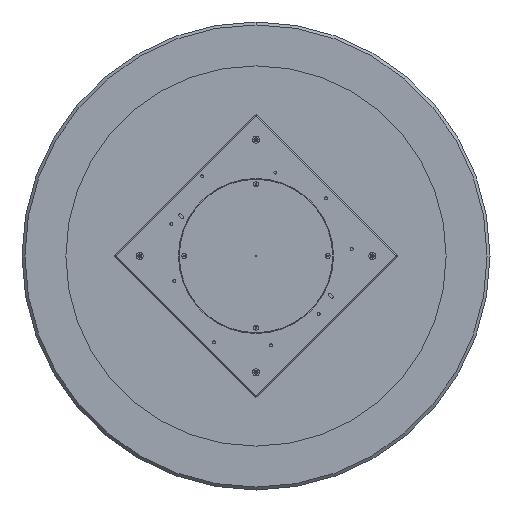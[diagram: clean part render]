
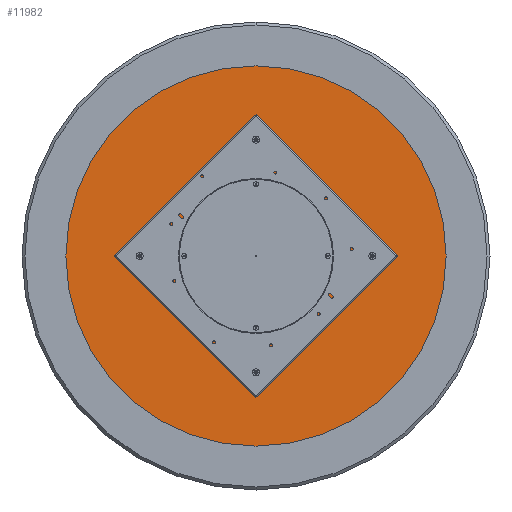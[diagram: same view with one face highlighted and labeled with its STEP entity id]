
A CAD part, front view. The second image highlights one B-rep face of the part: STEP entity #11982.
In plain terms, the highlighted planar face has unit normal (0, -1, 0).
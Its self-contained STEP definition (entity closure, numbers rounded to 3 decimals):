
#76 = DIRECTION ( 'NONE',  ( 0., 0., -1. ) ) ;
#173 = AXIS2_PLACEMENT_3D ( 'NONE', #11591, #7320, #12760 ) ;
#642 = VERTEX_POINT ( 'NONE', #10860 ) ;
#913 = EDGE_CURVE ( 'NONE', #16068, #2372, #10021, .T. ) ;
#1323 = AXIS2_PLACEMENT_3D ( 'NONE', #12927, #15889, #9268 ) ;
#1368 = CIRCLE ( 'NONE', #13629, 3.4 ) ;
#1441 = ORIENTED_EDGE ( 'NONE', *, *, #913, .F. ) ;
#1608 = EDGE_LOOP ( 'NONE', ( #3883, #16516 ) ) ;
#1932 = CIRCLE ( 'NONE', #2232, 650. ) ;
#1983 = CARTESIAN_POINT ( 'NONE',  ( 0., 0., -394.1 ) ) ;
#2232 = AXIS2_PLACEMENT_3D ( 'NONE', #14302, #15557, #3349 ) ;
#2272 = DIRECTION ( 'NONE',  ( 0., 0., -1. ) ) ;
#2363 = AXIS2_PLACEMENT_3D ( 'NONE', #6146, #16942, #17039 ) ;
#2372 = VERTEX_POINT ( 'NONE', #1983 ) ;
#2396 = EDGE_CURVE ( 'NONE', #16031, #14643, #7248, .T. ) ;
#2650 = AXIS2_PLACEMENT_3D ( 'NONE', #10902, #12161, #16362 ) ;
#2866 = VERTEX_POINT ( 'NONE', #4003 ) ;
#2881 = DIRECTION ( 'NONE',  ( 0., -1., 0. ) ) ;
#3349 = DIRECTION ( 'NONE',  ( 0., 0., 1. ) ) ;
#3391 = FACE_BOUND ( 'NONE', #6475, .T. ) ;
#3483 = DIRECTION ( 'NONE',  ( 0., 1., 0. ) ) ;
#3526 = CIRCLE ( 'NONE', #5795, 3.4 ) ;
#3550 = CARTESIAN_POINT ( 'NONE',  ( 0., 0., -650. ) ) ;
#3624 = CARTESIAN_POINT ( 'NONE',  ( -397.5, 0., 0. ) ) ;
#3649 = EDGE_LOOP ( 'NONE', ( #10224, #16294 ) ) ;
#3883 = ORIENTED_EDGE ( 'NONE', *, *, #9986, .F. ) ;
#4003 = CARTESIAN_POINT ( 'NONE',  ( 0., 0., 6.3 ) ) ;
#4172 = EDGE_CURVE ( 'NONE', #2372, #16068, #5626, .T. ) ;
#4305 = EDGE_CURVE ( 'NONE', #16565, #10723, #17608, .T. ) ;
#4743 = VERTEX_POINT ( 'NONE', #3550 ) ;
#4918 = PLANE ( 'NONE',  #11664 ) ;
#5007 = FACE_BOUND ( 'NONE', #9301, .T. ) ;
#5129 = DIRECTION ( 'NONE',  ( 0., -1., 0. ) ) ;
#5133 = EDGE_CURVE ( 'NONE', #10723, #16565, #16716, .T. ) ;
#5485 = EDGE_CURVE ( 'NONE', #642, #8472, #3526, .T. ) ;
#5613 = AXIS2_PLACEMENT_3D ( 'NONE', #3624, #13139, #11712 ) ;
#5626 = CIRCLE ( 'NONE', #173, 3.4 ) ;
#5694 = CIRCLE ( 'NONE', #15639, 3.4 ) ;
#5795 = AXIS2_PLACEMENT_3D ( 'NONE', #7239, #2881, #76 ) ;
#5862 = DIRECTION ( 'NONE',  ( 0., 0., -1. ) ) ;
#6029 = ORIENTED_EDGE ( 'NONE', *, *, #9763, .F. ) ;
#6146 = CARTESIAN_POINT ( 'NONE',  ( 0., 0., -397.5 ) ) ;
#6343 = FACE_BOUND ( 'NONE', #11786, .T. ) ;
#6358 = DIRECTION ( 'NONE',  ( 0., 0., -1. ) ) ;
#6475 = EDGE_LOOP ( 'NONE', ( #6724, #7577 ) ) ;
#6724 = ORIENTED_EDGE ( 'NONE', *, *, #5485, .F. ) ;
#6784 = DIRECTION ( 'NONE',  ( 0., 0., -1. ) ) ;
#6820 = CARTESIAN_POINT ( 'NONE',  ( 397.5, 0., 3.4 ) ) ;
#6902 = CARTESIAN_POINT ( 'NONE',  ( 397.5, 0., -3.4 ) ) ;
#6952 = DIRECTION ( 'NONE',  ( 0., -1., 0. ) ) ;
#7239 = CARTESIAN_POINT ( 'NONE',  ( 0., 0., 397.5 ) ) ;
#7248 = CIRCLE ( 'NONE', #17249, 3.4 ) ;
#7320 = DIRECTION ( 'NONE',  ( 0., -1., 0. ) ) ;
#7390 = FACE_OUTER_BOUND ( 'NONE', #1608, .T. ) ;
#7577 = ORIENTED_EDGE ( 'NONE', *, *, #11558, .F. ) ;
#7817 = DIRECTION ( 'NONE',  ( 0., 0., -1. ) ) ;
#8245 = EDGE_CURVE ( 'NONE', #14643, #16031, #1368, .T. ) ;
#8472 = VERTEX_POINT ( 'NONE', #13604 ) ;
#8814 = CARTESIAN_POINT ( 'NONE',  ( 0., 0., 0. ) ) ;
#8904 = AXIS2_PLACEMENT_3D ( 'NONE', #12436, #9929, #5862 ) ;
#9268 = DIRECTION ( 'NONE',  ( 0., 0., -1. ) ) ;
#9301 = EDGE_LOOP ( 'NONE', ( #1441, #17680 ) ) ;
#9695 = CARTESIAN_POINT ( 'NONE',  ( 397.5, 0., 0. ) ) ;
#9743 = CIRCLE ( 'NONE', #8904, 6.3 ) ;
#9763 = EDGE_CURVE ( 'NONE', #17107, #2866, #9743, .T. ) ;
#9792 = AXIS2_PLACEMENT_3D ( 'NONE', #14387, #5129, #2272 ) ;
#9929 = DIRECTION ( 'NONE',  ( 0., -1., 0. ) ) ;
#9986 = EDGE_CURVE ( 'NONE', #4743, #17278, #1932, .T. ) ;
#10021 = CIRCLE ( 'NONE', #2363, 3.4 ) ;
#10224 = ORIENTED_EDGE ( 'NONE', *, *, #8245, .F. ) ;
#10320 = DIRECTION ( 'NONE',  ( 0., 0., 1. ) ) ;
#10481 = DIRECTION ( 'NONE',  ( 0., -1., 0. ) ) ;
#10650 = CARTESIAN_POINT ( 'NONE',  ( 397.5, 0., 0. ) ) ;
#10723 = VERTEX_POINT ( 'NONE', #16301 ) ;
#10860 = CARTESIAN_POINT ( 'NONE',  ( 0., 0., 394.1 ) ) ;
#10902 = CARTESIAN_POINT ( 'NONE',  ( 0., 0., 0. ) ) ;
#11558 = EDGE_CURVE ( 'NONE', #8472, #642, #5694, .T. ) ;
#11591 = CARTESIAN_POINT ( 'NONE',  ( 0., 0., -397.5 ) ) ;
#11664 = AXIS2_PLACEMENT_3D ( 'NONE', #8814, #3483, #10320 ) ;
#11712 = DIRECTION ( 'NONE',  ( 0., 0., -1. ) ) ;
#11786 = EDGE_LOOP ( 'NONE', ( #16005, #16711 ) ) ;
#11948 = CARTESIAN_POINT ( 'NONE',  ( 0., 0., 397.5 ) ) ;
#11982 = ADVANCED_FACE ( 'NONE', ( #17049, #6343, #3391, #15781, #5007, #7390 ), #4918, .F. ) ;
#12161 = DIRECTION ( 'NONE',  ( 0., 1., 0. ) ) ;
#12436 = CARTESIAN_POINT ( 'NONE',  ( 0., 0., 0. ) ) ;
#12470 = CARTESIAN_POINT ( 'NONE',  ( 0., 0., -6.3 ) ) ;
#12760 = DIRECTION ( 'NONE',  ( 0., 0., -1. ) ) ;
#12927 = CARTESIAN_POINT ( 'NONE',  ( -397.5, 0., 0. ) ) ;
#13094 = CARTESIAN_POINT ( 'NONE',  ( 0., 0., 650. ) ) ;
#13139 = DIRECTION ( 'NONE',  ( 0., -1., 0. ) ) ;
#13296 = DIRECTION ( 'NONE',  ( 0., -1., 0. ) ) ;
#13604 = CARTESIAN_POINT ( 'NONE',  ( 0., 0., 400.9 ) ) ;
#13629 = AXIS2_PLACEMENT_3D ( 'NONE', #10650, #10481, #7817 ) ;
#14302 = CARTESIAN_POINT ( 'NONE',  ( 0., 0., 0. ) ) ;
#14387 = CARTESIAN_POINT ( 'NONE',  ( 0., 0., 0. ) ) ;
#14606 = CIRCLE ( 'NONE', #2650, 650. ) ;
#14643 = VERTEX_POINT ( 'NONE', #6902 ) ;
#14838 = ORIENTED_EDGE ( 'NONE', *, *, #17582, .F. ) ;
#14936 = CIRCLE ( 'NONE', #9792, 6.3 ) ;
#15519 = CARTESIAN_POINT ( 'NONE',  ( -397.5, 0., 3.4 ) ) ;
#15557 = DIRECTION ( 'NONE',  ( 0., 1., 0. ) ) ;
#15639 = AXIS2_PLACEMENT_3D ( 'NONE', #11948, #13296, #6358 ) ;
#15781 = FACE_BOUND ( 'NONE', #3649, .T. ) ;
#15889 = DIRECTION ( 'NONE',  ( 0., -1., 0. ) ) ;
#15998 = EDGE_LOOP ( 'NONE', ( #6029, #14838 ) ) ;
#16005 = ORIENTED_EDGE ( 'NONE', *, *, #5133, .F. ) ;
#16009 = EDGE_CURVE ( 'NONE', #17278, #4743, #14606, .T. ) ;
#16031 = VERTEX_POINT ( 'NONE', #6820 ) ;
#16068 = VERTEX_POINT ( 'NONE', #17642 ) ;
#16294 = ORIENTED_EDGE ( 'NONE', *, *, #2396, .F. ) ;
#16301 = CARTESIAN_POINT ( 'NONE',  ( -397.5, 0., -3.4 ) ) ;
#16362 = DIRECTION ( 'NONE',  ( 0., 0., 1. ) ) ;
#16516 = ORIENTED_EDGE ( 'NONE', *, *, #16009, .F. ) ;
#16565 = VERTEX_POINT ( 'NONE', #15519 ) ;
#16711 = ORIENTED_EDGE ( 'NONE', *, *, #4305, .F. ) ;
#16716 = CIRCLE ( 'NONE', #5613, 3.4 ) ;
#16942 = DIRECTION ( 'NONE',  ( 0., -1., 0. ) ) ;
#17039 = DIRECTION ( 'NONE',  ( 0., 0., -1. ) ) ;
#17049 = FACE_BOUND ( 'NONE', #15998, .T. ) ;
#17107 = VERTEX_POINT ( 'NONE', #12470 ) ;
#17249 = AXIS2_PLACEMENT_3D ( 'NONE', #9695, #6952, #6784 ) ;
#17278 = VERTEX_POINT ( 'NONE', #13094 ) ;
#17582 = EDGE_CURVE ( 'NONE', #2866, #17107, #14936, .T. ) ;
#17608 = CIRCLE ( 'NONE', #1323, 3.4 ) ;
#17642 = CARTESIAN_POINT ( 'NONE',  ( 0., 0., -400.9 ) ) ;
#17680 = ORIENTED_EDGE ( 'NONE', *, *, #4172, .F. ) ;
